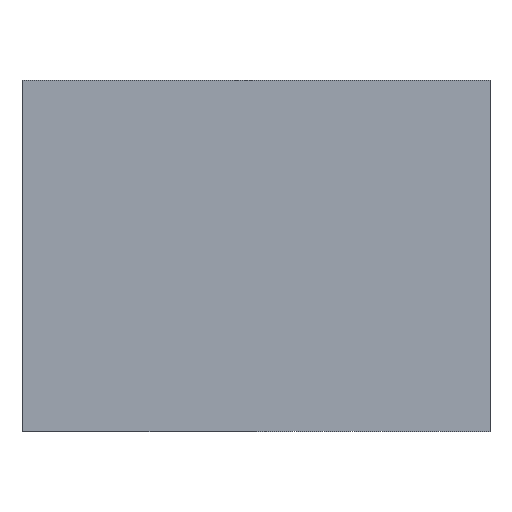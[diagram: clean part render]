
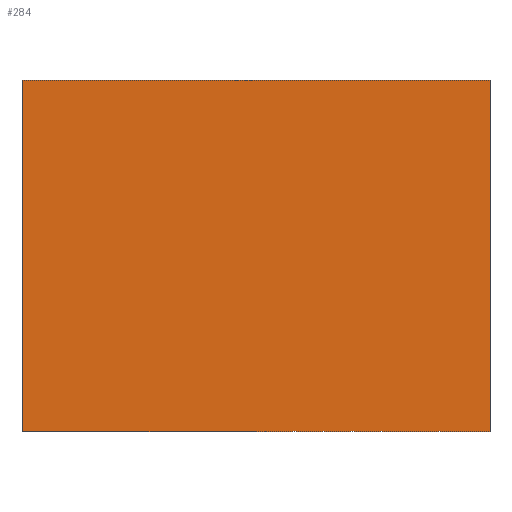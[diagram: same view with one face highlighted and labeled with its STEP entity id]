
A CAD part, front view. The second image highlights one B-rep face of the part: STEP entity #284.
In plain terms, the highlighted planar face has unit normal (0, -1, 0).
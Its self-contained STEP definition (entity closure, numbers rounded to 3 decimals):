
#21 = EDGE_CURVE('',#22,#24,#26,.T.);
#22 = VERTEX_POINT('',#23);
#23 = CARTESIAN_POINT('',(126.,43.3,69.));
#24 = VERTEX_POINT('',#25);
#25 = CARTESIAN_POINT('',(126.,43.3,75.));
#26 = SURFACE_CURVE('',#27,(#31,#43),.PCURVE_S1.);
#27 = LINE('',#28,#29);
#28 = CARTESIAN_POINT('',(126.,43.3,69.));
#29 = VECTOR('',#30,1.);
#30 = DIRECTION('',(0.,0.,1.));
#31 = PCURVE('',#32,#37);
#32 = PLANE('',#33);
#33 = AXIS2_PLACEMENT_3D('',#34,#35,#36);
#34 = CARTESIAN_POINT('',(126.,43.3,69.));
#35 = DIRECTION('',(-1.,0.,0.));
#36 = DIRECTION('',(0.,1.,0.));
#37 = DEFINITIONAL_REPRESENTATION('',(#38),#42);
#38 = LINE('',#39,#40);
#39 = CARTESIAN_POINT('',(0.,0.));
#40 = VECTOR('',#41,1.);
#41 = DIRECTION('',(0.,-1.));
#42 = ( GEOMETRIC_REPRESENTATION_CONTEXT(2) 
PARAMETRIC_REPRESENTATION_CONTEXT() REPRESENTATION_CONTEXT('2D SPACE',''
  ) );
#43 = PCURVE('',#44,#49);
#44 = PLANE('',#45);
#45 = AXIS2_PLACEMENT_3D('',#46,#47,#48);
#46 = CARTESIAN_POINT('',(134.,43.3,69.));
#47 = DIRECTION('',(0.,-1.,0.));
#48 = DIRECTION('',(-1.,0.,0.));
#49 = DEFINITIONAL_REPRESENTATION('',(#50),#54);
#50 = LINE('',#51,#52);
#51 = CARTESIAN_POINT('',(8.,0.));
#52 = VECTOR('',#53,1.);
#53 = DIRECTION('',(0.,-1.));
#54 = ( GEOMETRIC_REPRESENTATION_CONTEXT(2) 
PARAMETRIC_REPRESENTATION_CONTEXT() REPRESENTATION_CONTEXT('2D SPACE',''
  ) );
#72 = PLANE('',#73);
#73 = AXIS2_PLACEMENT_3D('',#74,#75,#76);
#74 = CARTESIAN_POINT('',(130.,116.9,75.));
#75 = DIRECTION('',(-0.,-0.,-1.));
#76 = DIRECTION('',(-1.,0.,0.));
#126 = PLANE('',#127);
#127 = AXIS2_PLACEMENT_3D('',#128,#129,#130);
#128 = CARTESIAN_POINT('',(130.,116.9,69.));
#129 = DIRECTION('',(-0.,-0.,-1.));
#130 = DIRECTION('',(-1.,0.,0.));
#181 = PLANE('',#182);
#182 = AXIS2_PLACEMENT_3D('',#183,#184,#185);
#183 = CARTESIAN_POINT('',(134.,190.5,69.));
#184 = DIRECTION('',(1.,0.,-0.));
#185 = DIRECTION('',(0.,-1.,0.));
#219 = VERTEX_POINT('',#220);
#220 = CARTESIAN_POINT('',(134.,43.3,75.));
#241 = EDGE_CURVE('',#242,#219,#244,.T.);
#242 = VERTEX_POINT('',#243);
#243 = CARTESIAN_POINT('',(134.,43.3,69.));
#244 = SURFACE_CURVE('',#245,(#249,#256),.PCURVE_S1.);
#245 = LINE('',#246,#247);
#246 = CARTESIAN_POINT('',(134.,43.3,69.));
#247 = VECTOR('',#248,1.);
#248 = DIRECTION('',(0.,0.,1.));
#249 = PCURVE('',#181,#250);
#250 = DEFINITIONAL_REPRESENTATION('',(#251),#255);
#251 = LINE('',#252,#253);
#252 = CARTESIAN_POINT('',(147.2,0.));
#253 = VECTOR('',#254,1.);
#254 = DIRECTION('',(0.,-1.));
#255 = ( GEOMETRIC_REPRESENTATION_CONTEXT(2) 
PARAMETRIC_REPRESENTATION_CONTEXT() REPRESENTATION_CONTEXT('2D SPACE',''
  ) );
#256 = PCURVE('',#44,#257);
#257 = DEFINITIONAL_REPRESENTATION('',(#258),#262);
#258 = LINE('',#259,#260);
#259 = CARTESIAN_POINT('',(0.,-0.));
#260 = VECTOR('',#261,1.);
#261 = DIRECTION('',(0.,-1.));
#262 = ( GEOMETRIC_REPRESENTATION_CONTEXT(2) 
PARAMETRIC_REPRESENTATION_CONTEXT() REPRESENTATION_CONTEXT('2D SPACE',''
  ) );
#284 = ADVANCED_FACE('',(#285),#44,.T.);
#285 = FACE_BOUND('',#286,.T.);
#286 = EDGE_LOOP('',(#287,#288,#309,#310));
#287 = ORIENTED_EDGE('',*,*,#241,.T.);
#288 = ORIENTED_EDGE('',*,*,#289,.T.);
#289 = EDGE_CURVE('',#219,#24,#290,.T.);
#290 = SURFACE_CURVE('',#291,(#295,#302),.PCURVE_S1.);
#291 = LINE('',#292,#293);
#292 = CARTESIAN_POINT('',(134.,43.3,75.));
#293 = VECTOR('',#294,1.);
#294 = DIRECTION('',(-1.,0.,0.));
#295 = PCURVE('',#44,#296);
#296 = DEFINITIONAL_REPRESENTATION('',(#297),#301);
#297 = LINE('',#298,#299);
#298 = CARTESIAN_POINT('',(0.,-6.));
#299 = VECTOR('',#300,1.);
#300 = DIRECTION('',(1.,0.));
#301 = ( GEOMETRIC_REPRESENTATION_CONTEXT(2) 
PARAMETRIC_REPRESENTATION_CONTEXT() REPRESENTATION_CONTEXT('2D SPACE',''
  ) );
#302 = PCURVE('',#72,#303);
#303 = DEFINITIONAL_REPRESENTATION('',(#304),#308);
#304 = LINE('',#305,#306);
#305 = CARTESIAN_POINT('',(-4.,-73.6));
#306 = VECTOR('',#307,1.);
#307 = DIRECTION('',(1.,0.));
#308 = ( GEOMETRIC_REPRESENTATION_CONTEXT(2) 
PARAMETRIC_REPRESENTATION_CONTEXT() REPRESENTATION_CONTEXT('2D SPACE',''
  ) );
#309 = ORIENTED_EDGE('',*,*,#21,.F.);
#310 = ORIENTED_EDGE('',*,*,#311,.F.);
#311 = EDGE_CURVE('',#242,#22,#312,.T.);
#312 = SURFACE_CURVE('',#313,(#317,#324),.PCURVE_S1.);
#313 = LINE('',#314,#315);
#314 = CARTESIAN_POINT('',(134.,43.3,69.));
#315 = VECTOR('',#316,1.);
#316 = DIRECTION('',(-1.,0.,0.));
#317 = PCURVE('',#44,#318);
#318 = DEFINITIONAL_REPRESENTATION('',(#319),#323);
#319 = LINE('',#320,#321);
#320 = CARTESIAN_POINT('',(0.,-0.));
#321 = VECTOR('',#322,1.);
#322 = DIRECTION('',(1.,0.));
#323 = ( GEOMETRIC_REPRESENTATION_CONTEXT(2) 
PARAMETRIC_REPRESENTATION_CONTEXT() REPRESENTATION_CONTEXT('2D SPACE',''
  ) );
#324 = PCURVE('',#126,#325);
#325 = DEFINITIONAL_REPRESENTATION('',(#326),#330);
#326 = LINE('',#327,#328);
#327 = CARTESIAN_POINT('',(-4.,-73.6));
#328 = VECTOR('',#329,1.);
#329 = DIRECTION('',(1.,0.));
#330 = ( GEOMETRIC_REPRESENTATION_CONTEXT(2) 
PARAMETRIC_REPRESENTATION_CONTEXT() REPRESENTATION_CONTEXT('2D SPACE',''
  ) );
